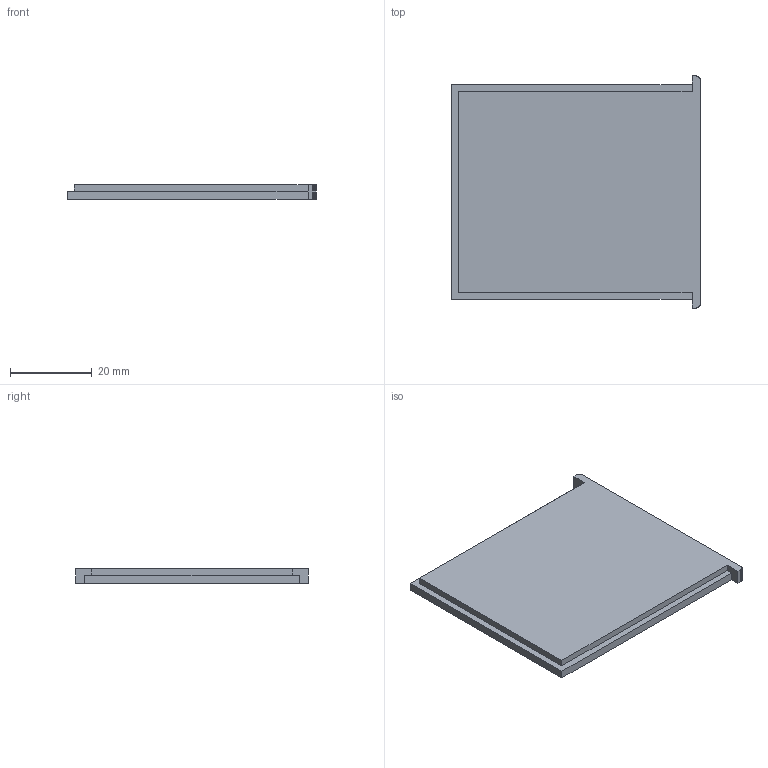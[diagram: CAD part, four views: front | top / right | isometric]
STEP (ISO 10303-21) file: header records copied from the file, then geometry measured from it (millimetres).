
FILE_DESCRIPTION(('Designed by EasyEDA Pro'),'2;1');
FILE_NAME('Open CASCADE Shape Model','2024-07-17T14:44:16',('Author'),( 'Open CASCADE'),'Open CASCADE STEP processor 7.6','Open CASCADE 7.6' ,'Unknown');
FILE_SCHEMA(('AUTOMOTIVE_DESIGN { 1 0 10303 214 1 1 1 1 }'));
Length unit declared in the file: millimetre
Products named in the file (1): Open CASCADE STEP translator 7.6 1
Bounding box: 60.73 x 56.74 x 3.6 mm (x, y, z)
Volume: 11088.3 mm3; surface area: 7235 mm2
Topology: 1 solids, 1 shells, 60 faces, 174 edges, 116 vertices
Faces by surface type: bspline 60
Entity records: 3688 total; most frequent: CARTESIAN_POINT 1401, B_SPLINE_CURVE_WITH_KNOTS 522, ORIENTED_EDGE 348, PCURVE 348, DEFINITIONAL_REPRESENTATION 348, EDGE_CURVE 174, SURFACE_CURVE 174, VERTEX_POINT 116
